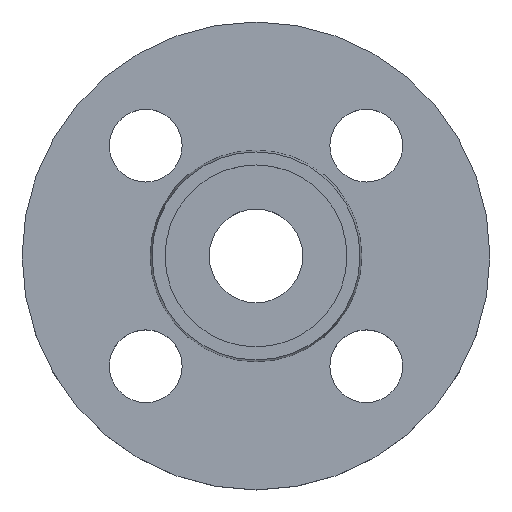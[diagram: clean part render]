
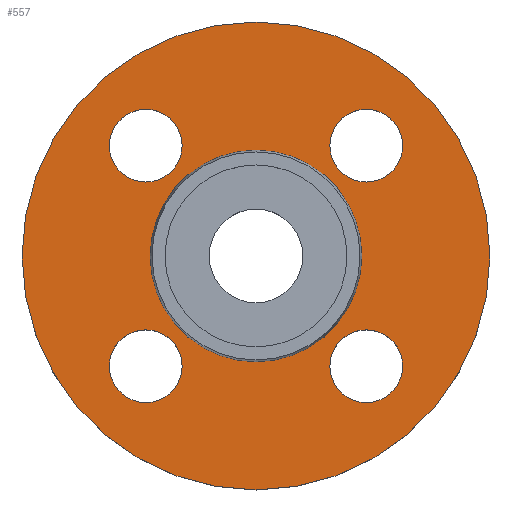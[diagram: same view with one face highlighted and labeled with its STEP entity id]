
A CAD part, top view. The second image highlights one B-rep face of the part: STEP entity #557.
In plain terms, the highlighted planar face has unit normal (0, 0, 1).
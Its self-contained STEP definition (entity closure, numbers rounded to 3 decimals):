
#1 = CARTESIAN_POINT ( 'NONE',  ( 14.213, 21.213, -2. ) ) ;
#2 = CARTESIAN_POINT ( 'NONE',  ( 45., 0., -2. ) ) ;
#26 = VERTEX_POINT ( 'NONE', #2 ) ;
#29 = VERTEX_POINT ( 'NONE', #1 ) ;
#37 = EDGE_LOOP ( 'NONE', ( #247, #248 ) ) ;
#40 = EDGE_LOOP ( 'NONE', ( #269, #274 ) ) ;
#42 = VERTEX_POINT ( 'NONE', #595 ) ;
#44 = EDGE_LOOP ( 'NONE', ( #249, #250 ) ) ;
#53 = EDGE_LOOP ( 'NONE', ( #243, #244 ) ) ;
#54 = FACE_BOUND ( 'NONE', #37, .T. ) ;
#66 = CARTESIAN_POINT ( 'NONE',  ( 28.213, -21.213, -2. ) ) ;
#67 = CARTESIAN_POINT ( 'NONE',  ( -20.353, 0., -2. ) ) ;
#70 = FACE_BOUND ( 'NONE', #44, .T. ) ;
#71 = CARTESIAN_POINT ( 'NONE',  ( -14.213, 21.213, -2. ) ) ;
#81 = VERTEX_POINT ( 'NONE', #66 ) ;
#82 = VERTEX_POINT ( 'NONE', #67 ) ;
#84 = VERTEX_POINT ( 'NONE', #71 ) ;
#90 = EDGE_LOOP ( 'NONE', ( #245, #246 ) ) ;
#100 = VERTEX_POINT ( 'NONE', #122 ) ;
#102 = EDGE_LOOP ( 'NONE', ( #241, #242 ) ) ;
#110 = FACE_OUTER_BOUND ( 'NONE', #40, .T. ) ;
#118 = AXIS2_PLACEMENT_3D ( 'NONE', #596, #597, #600 ) ;
#121 = CIRCLE ( 'NONE', #413, 20.353 ) ;
#122 = CARTESIAN_POINT ( 'NONE',  ( -45., 0., -2. ) ) ;
#156 = AXIS2_PLACEMENT_3D ( 'NONE', #428, #430, #433 ) ;
#160 = CIRCLE ( 'NONE', #542, 7. ) ;
#167 = AXIS2_PLACEMENT_3D ( 'NONE', #294, #300, #317 ) ;
#174 = VERTEX_POINT ( 'NONE', #291 ) ;
#180 = CIRCLE ( 'NONE', #513, 45. ) ;
#194 = VERTEX_POINT ( 'NONE', #306 ) ;
#206 = VERTEX_POINT ( 'NONE', #326 ) ;
#230 = AXIS2_PLACEMENT_3D ( 'NONE', #405, #412, #421 ) ;
#241 = ORIENTED_EDGE ( 'NONE', *, *, #286, .T. ) ;
#242 = ORIENTED_EDGE ( 'NONE', *, *, #315, .T. ) ;
#243 = ORIENTED_EDGE ( 'NONE', *, *, #608, .T. ) ;
#244 = ORIENTED_EDGE ( 'NONE', *, *, #437, .T. ) ;
#245 = ORIENTED_EDGE ( 'NONE', *, *, #612, .T. ) ;
#246 = ORIENTED_EDGE ( 'NONE', *, *, #435, .T. ) ;
#247 = ORIENTED_EDGE ( 'NONE', *, *, #385, .T. ) ;
#248 = ORIENTED_EDGE ( 'NONE', *, *, #311, .T. ) ;
#249 = ORIENTED_EDGE ( 'NONE', *, *, #639, .T. ) ;
#250 = ORIENTED_EDGE ( 'NONE', *, *, #296, .T. ) ;
#263 = VERTEX_POINT ( 'NONE', #348 ) ;
#267 = VERTEX_POINT ( 'NONE', #354 ) ;
#269 = ORIENTED_EDGE ( 'NONE', *, *, #324, .F. ) ;
#274 = ORIENTED_EDGE ( 'NONE', *, *, #285, .F. ) ;
#278 = CIRCLE ( 'NONE', #312, 7. ) ;
#285 = EDGE_CURVE ( 'NONE', #100, #26, #514, .T. ) ;
#286 = EDGE_CURVE ( 'NONE', #81, #174, #461, .T. ) ;
#289 = PLANE ( 'NONE',  #167 ) ;
#291 = CARTESIAN_POINT ( 'NONE',  ( 14.213, -21.213, -2. ) ) ;
#294 = CARTESIAN_POINT ( 'NONE',  ( 20.353, 0., -2. ) ) ;
#296 = EDGE_CURVE ( 'NONE', #263, #82, #401, .T. ) ;
#300 = DIRECTION ( 'NONE',  ( 0., 0., 1. ) ) ;
#306 = CARTESIAN_POINT ( 'NONE',  ( -28.213, 21.213, -2. ) ) ;
#307 = CIRCLE ( 'NONE', #501, 7. ) ;
#311 = EDGE_CURVE ( 'NONE', #29, #206, #307, .T. ) ;
#312 = AXIS2_PLACEMENT_3D ( 'NONE', #347, #350, #353 ) ;
#315 = EDGE_CURVE ( 'NONE', #174, #81, #417, .T. ) ;
#317 = DIRECTION ( 'NONE',  ( 1., 0., 0. ) ) ;
#323 = FACE_BOUND ( 'NONE', #53, .T. ) ;
#324 = EDGE_CURVE ( 'NONE', #26, #100, #180, .T. ) ;
#326 = CARTESIAN_POINT ( 'NONE',  ( 28.213, 21.213, -2. ) ) ;
#347 = CARTESIAN_POINT ( 'NONE',  ( -21.213, -21.213, -2. ) ) ;
#348 = CARTESIAN_POINT ( 'NONE',  ( 20.353, 0., -2. ) ) ;
#350 = DIRECTION ( 'NONE',  ( 0., 0., -1. ) ) ;
#353 = DIRECTION ( 'NONE',  ( 1., 0., 0. ) ) ;
#354 = CARTESIAN_POINT ( 'NONE',  ( -14.213, -21.213, -2. ) ) ;
#370 = CARTESIAN_POINT ( 'NONE',  ( -21.213, 21.213, -2. ) ) ;
#375 = DIRECTION ( 'NONE',  ( 1., 0., 0. ) ) ;
#377 = DIRECTION ( 'NONE',  ( 0., 0., -1. ) ) ;
#385 = EDGE_CURVE ( 'NONE', #206, #29, #506, .T. ) ;
#390 = FACE_BOUND ( 'NONE', #90, .T. ) ;
#401 = CIRCLE ( 'NONE', #472, 20.353 ) ;
#405 = CARTESIAN_POINT ( 'NONE',  ( 0., 0., -2. ) ) ;
#412 = DIRECTION ( 'NONE',  ( 0., 0., -1. ) ) ;
#413 = AXIS2_PLACEMENT_3D ( 'NONE', #414, #445, #446 ) ;
#414 = CARTESIAN_POINT ( 'NONE',  ( 0., 0., -2. ) ) ;
#417 = CIRCLE ( 'NONE', #613, 7. ) ;
#421 = DIRECTION ( 'NONE',  ( -1., 0., 0. ) ) ;
#428 = CARTESIAN_POINT ( 'NONE',  ( 21.213, -21.213, -2. ) ) ;
#430 = DIRECTION ( 'NONE',  ( 0., 0., -1. ) ) ;
#433 = DIRECTION ( 'NONE',  ( 1., 0., 0. ) ) ;
#434 = CARTESIAN_POINT ( 'NONE',  ( 0., 0., -2. ) ) ;
#435 = EDGE_CURVE ( 'NONE', #194, #84, #160, .T. ) ;
#436 = DIRECTION ( 'NONE',  ( 0., 0., -1. ) ) ;
#437 = EDGE_CURVE ( 'NONE', #42, #267, #642, .T. ) ;
#438 = DIRECTION ( 'NONE',  ( -1., 0., 0. ) ) ;
#443 = FACE_BOUND ( 'NONE', #102, .T. ) ;
#445 = DIRECTION ( 'NONE',  ( 0., 0., -1. ) ) ;
#446 = DIRECTION ( 'NONE',  ( -1., 0., 0. ) ) ;
#461 = CIRCLE ( 'NONE', #156, 7. ) ;
#472 = AXIS2_PLACEMENT_3D ( 'NONE', #434, #436, #438 ) ;
#485 = CARTESIAN_POINT ( 'NONE',  ( 21.213, 21.213, -2. ) ) ;
#486 = DIRECTION ( 'NONE',  ( 0., 0., -1. ) ) ;
#489 = DIRECTION ( 'NONE',  ( 1., 0., 0. ) ) ;
#501 = AXIS2_PLACEMENT_3D ( 'NONE', #485, #486, #489 ) ;
#506 = CIRCLE ( 'NONE', #628, 7. ) ;
#513 = AXIS2_PLACEMENT_3D ( 'NONE', #523, #525, #526 ) ;
#514 = CIRCLE ( 'NONE', #230, 45. ) ;
#517 = CARTESIAN_POINT ( 'NONE',  ( 21.213, -21.213, -2. ) ) ;
#519 = DIRECTION ( 'NONE',  ( 0., 0., -1. ) ) ;
#521 = DIRECTION ( 'NONE',  ( 1., 0., 0. ) ) ;
#523 = CARTESIAN_POINT ( 'NONE',  ( 0., 0., -2. ) ) ;
#525 = DIRECTION ( 'NONE',  ( 0., 0., -1. ) ) ;
#526 = DIRECTION ( 'NONE',  ( -1., 0., 0. ) ) ;
#542 = AXIS2_PLACEMENT_3D ( 'NONE', #591, #592, #594 ) ;
#550 = CARTESIAN_POINT ( 'NONE',  ( 21.213, 21.213, -2. ) ) ;
#551 = DIRECTION ( 'NONE',  ( 0., 0., -1. ) ) ;
#554 = CIRCLE ( 'NONE', #601, 7. ) ;
#555 = DIRECTION ( 'NONE',  ( 1., 0., 0. ) ) ;
#557 = ADVANCED_FACE ( 'NONE', ( #443, #323, #390, #54, #70, #110 ), #289, .T. ) ;
#591 = CARTESIAN_POINT ( 'NONE',  ( -21.213, 21.213, -2. ) ) ;
#592 = DIRECTION ( 'NONE',  ( 0., 0., -1. ) ) ;
#594 = DIRECTION ( 'NONE',  ( 1., 0., 0. ) ) ;
#595 = CARTESIAN_POINT ( 'NONE',  ( -28.213, -21.213, -2. ) ) ;
#596 = CARTESIAN_POINT ( 'NONE',  ( -21.213, -21.213, -2. ) ) ;
#597 = DIRECTION ( 'NONE',  ( 0., 0., -1. ) ) ;
#600 = DIRECTION ( 'NONE',  ( 1., 0., 0. ) ) ;
#601 = AXIS2_PLACEMENT_3D ( 'NONE', #370, #377, #375 ) ;
#608 = EDGE_CURVE ( 'NONE', #267, #42, #278, .T. ) ;
#612 = EDGE_CURVE ( 'NONE', #84, #194, #554, .T. ) ;
#613 = AXIS2_PLACEMENT_3D ( 'NONE', #517, #519, #521 ) ;
#628 = AXIS2_PLACEMENT_3D ( 'NONE', #550, #551, #555 ) ;
#639 = EDGE_CURVE ( 'NONE', #82, #263, #121, .T. ) ;
#642 = CIRCLE ( 'NONE', #118, 7. ) ;
